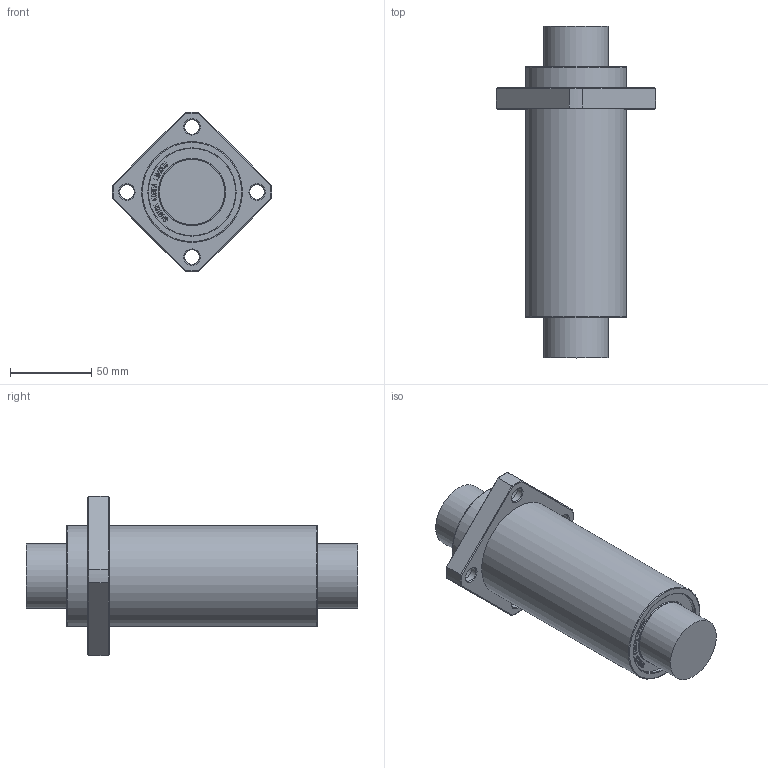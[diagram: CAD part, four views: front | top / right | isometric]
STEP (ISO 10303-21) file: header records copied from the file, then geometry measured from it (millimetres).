
FILE_DESCRIPTION(/* description */ (''),/* implementation_level */ '2;1');
FILE_NAME(/* name */ 'W:\(01) 2024년 홈페이지 CAD파일 최신화\LMEKP_L\IPT\LMEKP40LUU.stp',/* time_stamp */ '2025-01-25T13:03:58+09:00',/* author */ ('서우현'),/* organization */ (''),/* preprocessor_version */ 'ST-DEVELOPER v17.2',/* originating_system */ 'Autodesk Inventor 2019',/* authorisation */ '');
FILE_SCHEMA (('AUTOMOTIVE_DESIGN { 1 0 10303 214 3 1 1 }'));
Length unit declared in the file: millimetre
Products named in the file (1): LM5
Bounding box: 97.96 x 204 x 97.96 mm (x, y, z)
Volume: 549666.7 mm3; surface area: 51038.1 mm2
Topology: 1 solids, 1 shells, 866 faces, 2418 edges, 1612 vertices
Faces by surface type: bspline 572, plane 254, cone 20, cylinder 18, torus 2
Full cylindrical faces by diameter (mm): 9 x4, 14 x4, 40 x2, 53.65 x2, 62 x2
Entity records: 29560 total; most frequent: CARTESIAN_POINT 10757, ORIENTED_EDGE 4836, EDGE_CURVE 2418, DIRECTION 1938, VERTEX_POINT 1612, LINE 1168, VECTOR 1168, B_SPLINE_CURVE_WITH_KNOTS 1144
